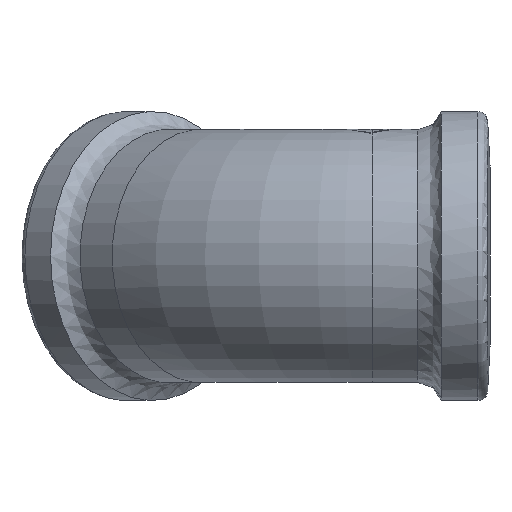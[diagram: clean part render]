
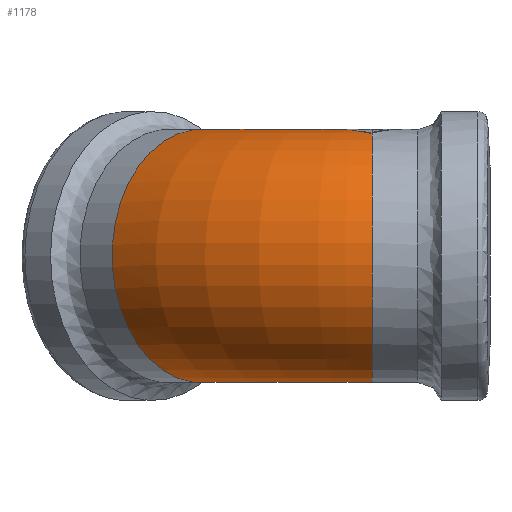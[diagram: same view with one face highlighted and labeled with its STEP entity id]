
A CAD part, left-side view. The second image highlights one B-rep face of the part: STEP entity #1178.
In plain terms, the highlighted toroidal (fillet/blend) face has major radius 24.35 mm and minor radius 12.8 mm.
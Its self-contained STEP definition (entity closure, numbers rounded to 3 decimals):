
#354=CARTESIAN_POINT('',(-3.177,12.045,12.399));
#355=VERTEX_POINT('',#354);
#356=CARTESIAN_POINT('',(-0.029,15.544,12.796));
#357=VERTEX_POINT('',#356);
#358=CARTESIAN_POINT('',(-3.177,12.045,12.399));
#359=CARTESIAN_POINT('',(-2.224,13.105,12.642));
#360=CARTESIAN_POINT('',(-1.24,14.198,12.756));
#361=CARTESIAN_POINT('',(-0.317,15.224,12.789));
#362=CARTESIAN_POINT('',(-0.22,15.331,12.792));
#363=CARTESIAN_POINT('',(-0.124,15.438,12.795));
#364=CARTESIAN_POINT('',(-0.029,15.544,12.796));
#365=B_SPLINE_CURVE_WITH_KNOTS('',3,(#358,#359,#360,#361,#362,#363,#364),.UNSPECIFIED.,.F.,.U.,(4,3,4),(12.45,12.849,12.89),.UNSPECIFIED.);
#366=EDGE_CURVE('',#355,#357,#365,.T.);
#389=CARTESIAN_POINT('',(3.12,12.045,12.414));
#390=VERTEX_POINT('',#389);
#391=CARTESIAN_POINT('',(-0.029,15.544,12.796));
#392=CARTESIAN_POINT('',(0.177,15.315,12.802));
#393=CARTESIAN_POINT('',(0.376,15.094,12.801));
#394=CARTESIAN_POINT('',(0.582,14.865,12.794));
#395=CARTESIAN_POINT('',(1.278,14.092,12.769));
#396=CARTESIAN_POINT('',(2.023,13.264,12.667));
#397=CARTESIAN_POINT('',(2.756,12.45,12.501));
#398=CARTESIAN_POINT('',(2.878,12.314,12.474));
#399=CARTESIAN_POINT('',(2.999,12.179,12.445));
#400=CARTESIAN_POINT('',(3.12,12.045,12.414));
#401=B_SPLINE_CURVE_WITH_KNOTS('',3,(#391,#392,#393,#394,#395,#396,#397,#398,#399,#400),.UNSPECIFIED.,.F.,.U.,(4,3,3,4),(13.644,13.734,14.037,14.088),.UNSPECIFIED.);
#402=EDGE_CURVE('',#357,#390,#401,.T.);
#420=CARTESIAN_POINT('',(-3.047,11.9,12.432));
#421=VERTEX_POINT('',#420);
#422=CARTESIAN_POINT('',(-3.047,11.9,12.432));
#423=CARTESIAN_POINT('',(-3.091,11.948,12.421));
#424=CARTESIAN_POINT('',(-3.134,11.997,12.41));
#425=CARTESIAN_POINT('',(-3.177,12.045,12.399));
#426=B_SPLINE_CURVE_WITH_KNOTS('',3,(#422,#423,#424,#425),.UNSPECIFIED.,.F.,.U.,(4,4),(1.722,1.741),.UNSPECIFIED.);
#427=EDGE_CURVE('',#421,#355,#426,.T.);
#455=CARTESIAN_POINT('',(2.99,11.9,12.446));
#456=VERTEX_POINT('',#455);
#464=CARTESIAN_POINT('',(3.12,12.045,12.414));
#465=CARTESIAN_POINT('',(3.077,11.997,12.425));
#466=CARTESIAN_POINT('',(3.033,11.948,12.435));
#467=CARTESIAN_POINT('',(2.99,11.9,12.446));
#468=B_SPLINE_CURVE_WITH_KNOTS('',3,(#464,#465,#466,#467),.UNSPECIFIED.,.F.,.U.,(4,4),(1.362,1.38),.UNSPECIFIED.);
#469=EDGE_CURVE('',#390,#456,#468,.T.);
#1079=CARTESIAN_POINT('',(12.312,11.9,-3.5));
#1080=VERTEX_POINT('',#1079);
#1081=CARTESIAN_POINT('',(0.0,11.9,0.0));
#1082=DIRECTION('',(0.0,-1.0,0.0));
#1083=DIRECTION('',(1.0,0.0,0.0));
#1084=AXIS2_PLACEMENT_3D('',#1081,#1082,#1083);
#1085=CIRCLE('',#1084,12.8);
#1086=EDGE_CURVE('',#421,#1080,#1085,.T.);
#1105=CARTESIAN_POINT('',(12.312,11.9,3.5));
#1106=VERTEX_POINT('',#1105);
#1113=CARTESIAN_POINT('',(0.0,11.9,0.0));
#1114=DIRECTION('',(0.0,-1.0,0.0));
#1115=DIRECTION('',(1.0,0.0,0.0));
#1116=AXIS2_PLACEMENT_3D('',#1113,#1114,#1115);
#1117=CIRCLE('',#1116,12.8);
#1118=EDGE_CURVE('',#1106,#456,#1117,.T.);
#1140=CARTESIAN_POINT('',(24.35,11.9,0.0));
#1141=DIRECTION('',(0.0,0.0,-1.0));
#1142=DIRECTION('',(-1.0,0.0,0.0));
#1143=AXIS2_PLACEMENT_3D('',#1140,#1141,#1142);
#1144=TOROIDAL_SURFACE('',#1143,24.35,12.8);
#1145=ORIENTED_EDGE('',*,*,#469,.T.);
#1146=ORIENTED_EDGE('',*,*,#1118,.F.);
#1147=CARTESIAN_POINT('',(15.838,20.412,3.5));
#1148=VERTEX_POINT('',#1147);
#1149=CARTESIAN_POINT('',(24.35,11.9,3.5));
#1150=DIRECTION('',(0.0,0.0,-1.0));
#1151=DIRECTION('',(-1.0,0.0,0.0));
#1152=AXIS2_PLACEMENT_3D('',#1149,#1150,#1151);
#1153=CIRCLE('',#1152,12.038);
#1154=EDGE_CURVE('',#1106,#1148,#1153,.T.);
#1155=ORIENTED_EDGE('',*,*,#1154,.T.);
#1156=CARTESIAN_POINT('',(15.838,20.412,-3.5));
#1157=VERTEX_POINT('',#1156);
#1158=CARTESIAN_POINT('',(7.132,29.118,0.0));
#1159=DIRECTION('',(-0.707,-0.707,0.0));
#1160=DIRECTION('',(0.707,-0.707,0.0));
#1161=AXIS2_PLACEMENT_3D('',#1158,#1159,#1160);
#1162=CIRCLE('',#1161,12.8);
#1163=EDGE_CURVE('',#1148,#1157,#1162,.T.);
#1164=ORIENTED_EDGE('',*,*,#1163,.T.);
#1165=CARTESIAN_POINT('',(24.35,11.9,-3.5));
#1166=DIRECTION('',(0.0,0.0,1.0));
#1167=DIRECTION('',(-1.0,0.0,0.0));
#1168=AXIS2_PLACEMENT_3D('',#1165,#1166,#1167);
#1169=CIRCLE('',#1168,12.038);
#1170=EDGE_CURVE('',#1157,#1080,#1169,.T.);
#1171=ORIENTED_EDGE('',*,*,#1170,.T.);
#1172=ORIENTED_EDGE('',*,*,#1086,.F.);
#1173=ORIENTED_EDGE('',*,*,#427,.T.);
#1174=ORIENTED_EDGE('',*,*,#366,.T.);
#1175=ORIENTED_EDGE('',*,*,#402,.T.);
#1176=EDGE_LOOP('',(#1145,#1146,#1155,#1164,#1171,#1172,#1173,#1174,#1175));
#1177=FACE_OUTER_BOUND('',#1176,.T.);
#1178=ADVANCED_FACE('',(#1177),#1144,.T.);
